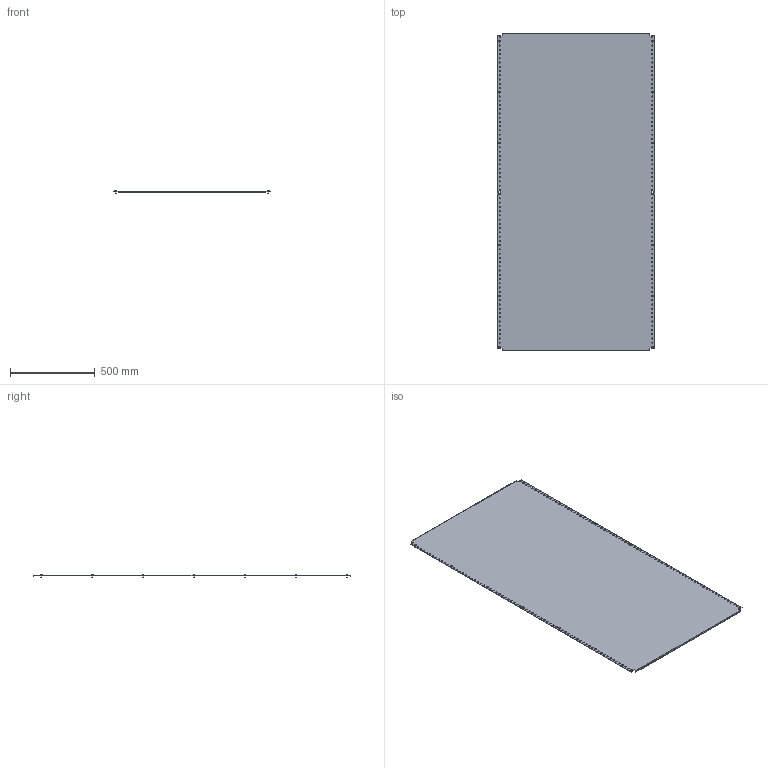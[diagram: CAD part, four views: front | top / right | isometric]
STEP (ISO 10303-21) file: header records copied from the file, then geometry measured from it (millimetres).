
FILE_DESCRIPTION (( 'STEP AP203' ), '1' );
FILE_NAME ('R6MP20100.STEP', '2025-03-28T12:13:20', ( '' ), ( '' ), 'SwSTEP 2.0', 'SolidWorks 2022', '' );
FILE_SCHEMA (( 'CONFIG_CONTROL_DESIGN' ));
Length unit declared in the file: millimetre
Products named in the file (3): RB.3293.00.00.0_-29; M5x12 DIN 7500 C Torx Zinc_stright; R6MP20100
Assembly tree (15 placements, depth 2):
  R6MP20100
    RB.3293.00.00.0_-29
    M5x12 DIN 7500 C Torx Zinc_stright  x14
Bounding box: 925 x 1870 x 15.56 mm (x, y, z)
Volume: 3132949.4 mm3; surface area: 3496120.7 mm2
Topology: 15 solids, 15 shells, 406 faces, 960 edges, 598 vertices
Faces by surface type: cylinder 180, plane 142, torus 28, cone 28, sphere 14, bspline 14
Full cylindrical faces by diameter (mm): 5 x14, 6.5 x148, 9.5 x14
Entity records: 7365 total; most frequent: CARTESIAN_POINT 1206, DIRECTION 1152, ORIENTED_EDGE 824, EDGE_LOOP 654, AXIS2_PLACEMENT_3D 532, EDGE_CURVE 412, VERTEX_POINT 374, FACE_OUTER_BOUND 352
